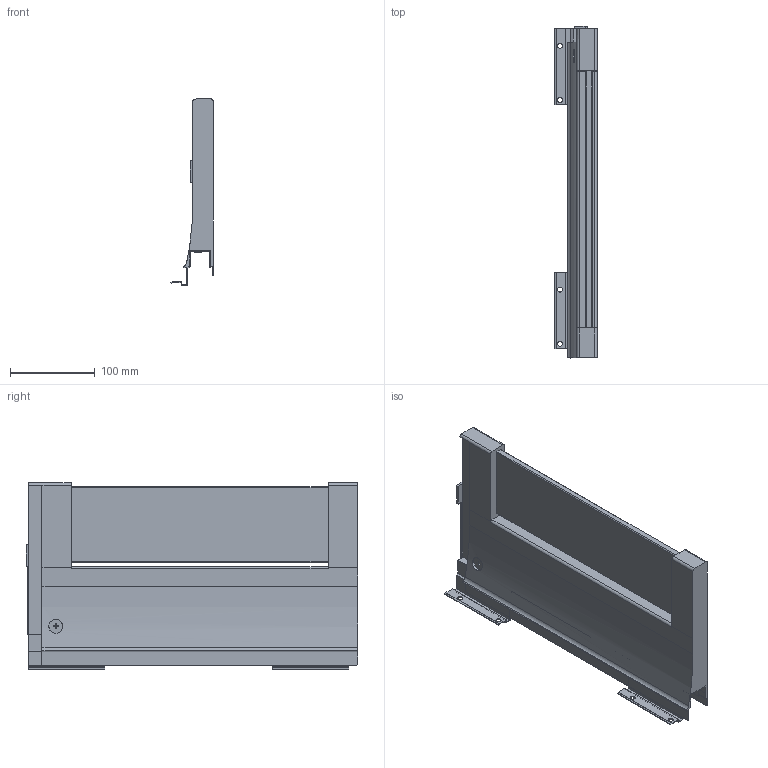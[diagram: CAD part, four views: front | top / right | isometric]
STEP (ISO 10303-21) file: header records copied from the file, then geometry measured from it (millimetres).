
FILE_DESCRIPTION (( 'STEP AP214' ), '1' );
FILE_NAME ('_XP Agantis Dekorseite H127 NL400 RE Top Glashalter.step', '2010-07-08T06:29:20', ( 'grass' ), ( '' ), 'SwSTEP 2.0', 'SolidWorks 2010', '' );
FILE_SCHEMA (( 'AUTOMOTIVE_DESIGN' ));
Length unit declared in the file: millimetre
Products named in the file (1): _XP Agantis Dekorseite H127 NL400 RE Top Glashalter
Bounding box: 50.11 x 392.6 x 220.7 mm (x, y, z)
Volume: 1263726.6 mm3; surface area: 240111.8 mm2
Topology: 1 solids, 1 shells, 150 faces, 434 edges, 285 vertices
Faces by surface type: plane 121, cylinder 29
Entity records: 5017 total; most frequent: CARTESIAN_POINT 957, ORIENTED_EDGE 868, DIRECTION 792, EDGE_CURVE 434, VECTOR 374, LINE 374, VERTEX_POINT 285, AXIS2_PLACEMENT_3D 209
